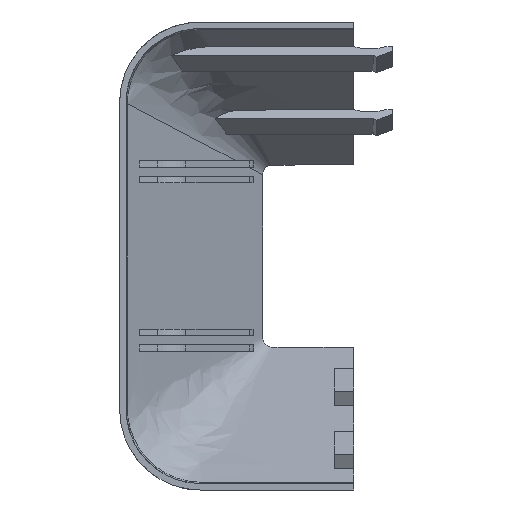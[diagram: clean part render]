
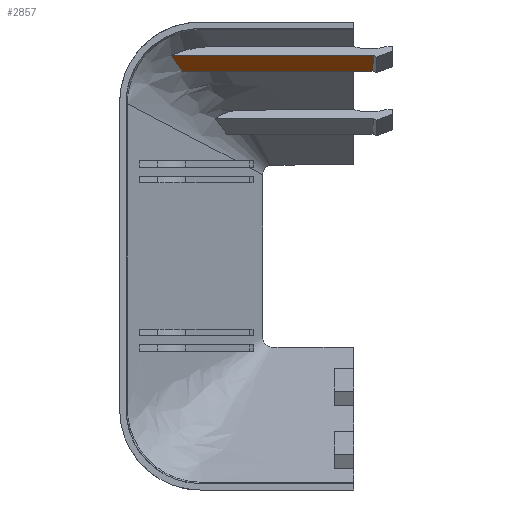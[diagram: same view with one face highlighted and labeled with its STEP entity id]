
A CAD part, front view. The second image highlights one B-rep face of the part: STEP entity #2857.
In plain terms, the highlighted planar face has unit normal (0, -0.489, -0.873).
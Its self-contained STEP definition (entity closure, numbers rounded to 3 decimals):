
#295 = CARTESIAN_POINT ( 'NONE',  ( 6., 12.518, 64.125 ) ) ;
#427 = VECTOR ( 'NONE', #7234, 1000. ) ;
#583 = VERTEX_POINT ( 'NONE', #7580 ) ;
#895 = CARTESIAN_POINT ( 'NONE',  ( -56.479, 16.047, 62.148 ) ) ;
#1150 = AXIS2_PLACEMENT_3D ( 'NONE', #4218, #2930, #5382 ) ;
#1243 = CARTESIAN_POINT ( 'NONE',  ( -73.738, 24.685, 57.311 ) ) ;
#1312 = EDGE_CURVE ( 'NONE', #6704, #583, #4221, .T. ) ;
#1459 = LINE ( 'NONE', #4676, #5321 ) ;
#1868 = VERTEX_POINT ( 'NONE', #895 ) ;
#2316 = CARTESIAN_POINT ( 'NONE',  ( -55.399, 18.929, 60.535 ) ) ;
#2857 = ADVANCED_FACE ( 'NONE', ( #7704 ), #3020, .F. ) ;
#2930 = DIRECTION ( 'NONE',  ( 0., 0.489, 0.873 ) ) ;
#3020 = PLANE ( 'NONE',  #1150 ) ;
#3170 = EDGE_LOOP ( 'NONE', ( #4094, #4392, #6783, #6151 ) ) ;
#3464 = CARTESIAN_POINT ( 'NONE',  ( -54.312, 21.808, 58.922 ) ) ;
#4094 = ORIENTED_EDGE ( 'NONE', *, *, #6150, .T. ) ;
#4218 = CARTESIAN_POINT ( 'NONE',  ( -73.738, 16.047, 62.148 ) ) ;
#4221 = LINE ( 'NONE', #295, #7798 ) ;
#4392 = ORIENTED_EDGE ( 'NONE', *, *, #1312, .F. ) ;
#4676 = CARTESIAN_POINT ( 'NONE',  ( -73.738, 16.047, 62.148 ) ) ;
#4700 = CARTESIAN_POINT ( 'NONE',  ( -53.219, 24.685, 57.311 ) ) ;
#5273 = CARTESIAN_POINT ( 'NONE',  ( 6., 16.047, 62.148 ) ) ;
#5321 = VECTOR ( 'NONE', #7711, 1000. ) ;
#5382 = DIRECTION ( 'NONE',  ( 0., -0.873, 0.489 ) ) ;
#5614 = VERTEX_POINT ( 'NONE', #6081 ) ;
#5900 = CARTESIAN_POINT ( 'NONE',  ( -56.479, 16.047, 62.148 ) ) ;
#5907 = EDGE_CURVE ( 'NONE', #1868, #6704, #1459, .T. ) ;
#6081 = CARTESIAN_POINT ( 'NONE',  ( -53.219, 24.685, 57.311 ) ) ;
#6150 = EDGE_CURVE ( 'NONE', #5614, #583, #7121, .T. ) ;
#6151 = ORIENTED_EDGE ( 'NONE', *, *, #6746, .F. ) ;
#6704 = VERTEX_POINT ( 'NONE', #5273 ) ;
#6746 = EDGE_CURVE ( 'NONE', #5614, #1868, #7079, .T. ) ;
#6783 = ORIENTED_EDGE ( 'NONE', *, *, #5907, .F. ) ;
#7079 = B_SPLINE_CURVE_WITH_KNOTS ( 'NONE', 3,
 ( #4700, #3464, #2316, #5900 ),
 .UNSPECIFIED., .F., .F.,
 ( 4, 4 ),
 ( 0., 0.01 ),
 .UNSPECIFIED. ) ;
#7121 = LINE ( 'NONE', #1243, #427 ) ;
#7234 = DIRECTION ( 'NONE',  ( 1., 0., 0. ) ) ;
#7453 = DIRECTION ( 'NONE',  ( 0., 0.873, -0.489 ) ) ;
#7580 = CARTESIAN_POINT ( 'NONE',  ( 6., 24.685, 57.311 ) ) ;
#7704 = FACE_OUTER_BOUND ( 'NONE', #3170, .T. ) ;
#7711 = DIRECTION ( 'NONE',  ( 1., 0., 0. ) ) ;
#7798 = VECTOR ( 'NONE', #7453, 1000. ) ;
